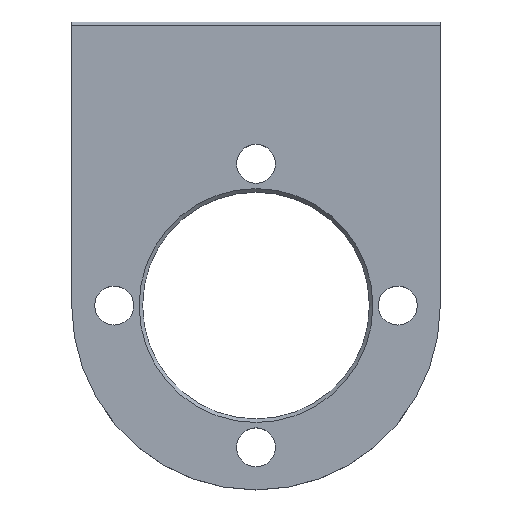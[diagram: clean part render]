
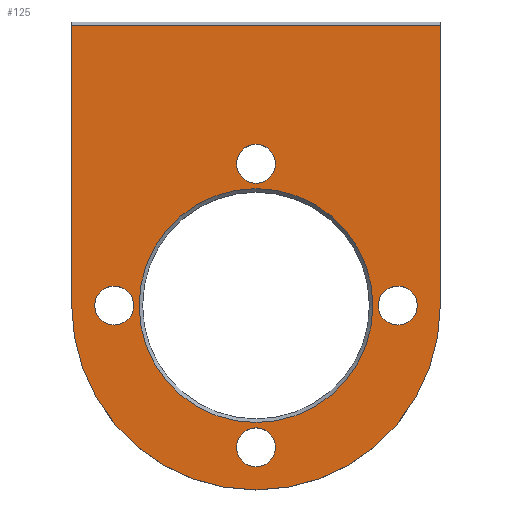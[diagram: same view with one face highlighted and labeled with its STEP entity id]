
A CAD part, top view. The second image highlights one B-rep face of the part: STEP entity #125.
In plain terms, the highlighted planar face has unit normal (0, 0, 1).
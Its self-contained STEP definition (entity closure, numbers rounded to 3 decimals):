
#125=ADVANCED_FACE('',(#297,#299,#301,#303,#305,#307),#309,.T.);
#297=FACE_BOUND('',#298,.T.);
#298=EDGE_LOOP('',(#448,#449,#450,#451));
#299=FACE_BOUND('',#300,.T.);
#300=EDGE_LOOP('',(#452));
#301=FACE_BOUND('',#302,.T.);
#302=EDGE_LOOP('',(#453));
#303=FACE_BOUND('',#304,.T.);
#304=EDGE_LOOP('',(#454));
#305=FACE_BOUND('',#306,.T.);
#306=EDGE_LOOP('',(#455));
#307=FACE_BOUND('',#308,.T.);
#308=EDGE_LOOP('',(#456));
#309=PLANE('',#310);
#310=AXIS2_PLACEMENT_3D('',#311,#312,#313);
#311=CARTESIAN_POINT('',(0.,0.,10.));
#312=DIRECTION('',(0.,0.,1.));
#313=DIRECTION('',(-1.,0.,0.));
#448=ORIENTED_EDGE('',*,*,#496,.T.);
#449=ORIENTED_EDGE('',*,*,#506,.T.);
#450=ORIENTED_EDGE('',*,*,#509,.T.);
#451=ORIENTED_EDGE('',*,*,#498,.T.);
#452=ORIENTED_EDGE('',*,*,#510,.T.);
#453=ORIENTED_EDGE('',*,*,#511,.T.);
#454=ORIENTED_EDGE('',*,*,#512,.T.);
#455=ORIENTED_EDGE('',*,*,#513,.T.);
#456=ORIENTED_EDGE('',*,*,#514,.T.);
#496=EDGE_CURVE('',#540,#538,#541,.T.);
#498=EDGE_CURVE('',#543,#540,#544,.T.);
#506=EDGE_CURVE('',#538,#555,#557,.T.);
#509=EDGE_CURVE('',#555,#543,#562,.T.);
#510=EDGE_CURVE('',#563,#563,#564,.F.);
#511=EDGE_CURVE('',#565,#565,#566,.F.);
#512=EDGE_CURVE('',#567,#567,#568,.F.);
#513=EDGE_CURVE('',#569,#569,#570,.F.);
#514=EDGE_CURVE('',#571,#571,#572,.F.);
#538=VERTEX_POINT('',#622);
#540=VERTEX_POINT('',#626);
#541=LINE('',#627,#628);
#543=VERTEX_POINT('',#633);
#544=LINE('',#634,#635);
#555=VERTEX_POINT('',#659);
#557=LINE('',#663,#664);
#562=CIRCLE('',#676,26.);
#563=VERTEX_POINT('',#680);
#564=CIRCLE('',#681,2.75);
#565=VERTEX_POINT('',#685);
#566=CIRCLE('',#686,2.75);
#567=VERTEX_POINT('',#690);
#568=CIRCLE('',#691,2.75);
#569=VERTEX_POINT('',#695);
#570=CIRCLE('',#696,2.75);
#571=VERTEX_POINT('',#700);
#572=CIRCLE('',#701,16.5);
#622=CARTESIAN_POINT('',(-26.,39.,10.));
#626=CARTESIAN_POINT('',(26.,39.,10.));
#627=CARTESIAN_POINT('',(26.,39.,10.));
#628=VECTOR('',#629,1.);
#629=DIRECTION('',(-1.,0.,0.));
#633=CARTESIAN_POINT('',(26.,-0.5,10.));
#634=CARTESIAN_POINT('',(26.,-0.5,10.));
#635=VECTOR('',#636,1.);
#636=DIRECTION('',(0.,1.,0.));
#659=CARTESIAN_POINT('',(-26.,-0.5,10.));
#663=CARTESIAN_POINT('',(-26.,39.,10.));
#664=VECTOR('',#665,1.);
#665=DIRECTION('',(0.,-1.,0.));
#676=AXIS2_PLACEMENT_3D('',#677,#678,#679);
#677=CARTESIAN_POINT('',(0.,-0.5,10.));
#678=DIRECTION('',(0.,0.,1.));
#679=DIRECTION('',(-1.,0.,0.));
#680=CARTESIAN_POINT('',(-22.75,-0.5,10.));
#681=AXIS2_PLACEMENT_3D('',#682,#683,#684);
#682=CARTESIAN_POINT('',(-20.,-0.5,10.));
#683=DIRECTION('',(0.,0.,1.));
#684=DIRECTION('',(-1.,0.,0.));
#685=CARTESIAN_POINT('',(-2.75,-20.5,10.));
#686=AXIS2_PLACEMENT_3D('',#687,#688,#689);
#687=CARTESIAN_POINT('',(0.,-20.5,10.));
#688=DIRECTION('',(0.,0.,1.));
#689=DIRECTION('',(-1.,0.,0.));
#690=CARTESIAN_POINT('',(-2.75,19.5,10.));
#691=AXIS2_PLACEMENT_3D('',#692,#693,#694);
#692=CARTESIAN_POINT('',(0.,19.5,10.));
#693=DIRECTION('',(0.,0.,1.));
#694=DIRECTION('',(-1.,0.,0.));
#695=CARTESIAN_POINT('',(17.25,-0.5,10.));
#696=AXIS2_PLACEMENT_3D('',#697,#698,#699);
#697=CARTESIAN_POINT('',(20.,-0.5,10.));
#698=DIRECTION('',(0.,0.,1.));
#699=DIRECTION('',(-1.,0.,0.));
#700=CARTESIAN_POINT('',(-16.5,-0.5,10.));
#701=AXIS2_PLACEMENT_3D('',#702,#703,#704);
#702=CARTESIAN_POINT('',(0.,-0.5,10.));
#703=DIRECTION('',(0.,0.,1.));
#704=DIRECTION('',(-1.,0.,0.));
